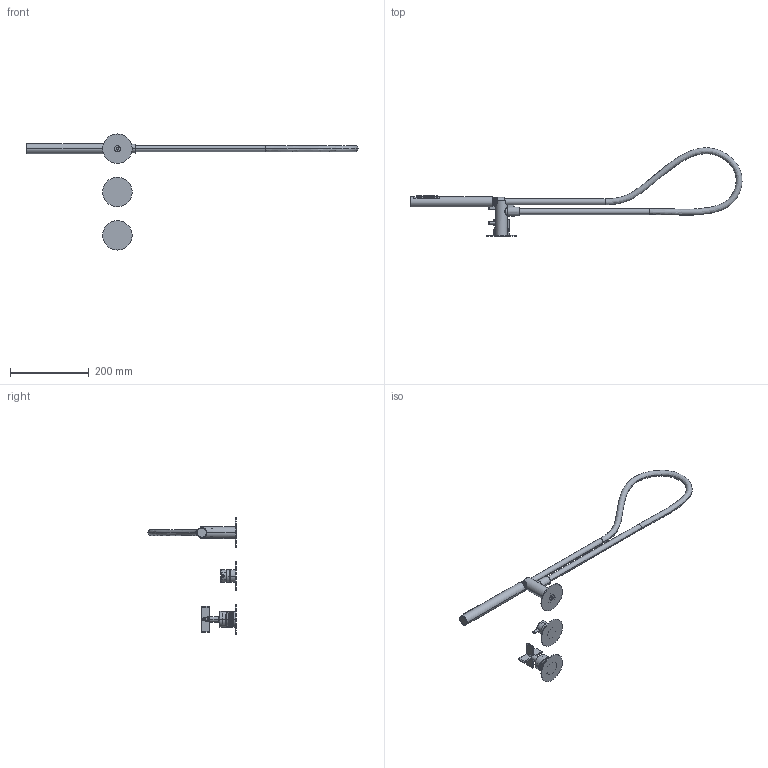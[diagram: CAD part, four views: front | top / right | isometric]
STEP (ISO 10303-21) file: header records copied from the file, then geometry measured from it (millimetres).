
FILE_DESCRIPTION((''),'2;1');
FILE_NAME('39559V2_SW0001','2024-12-05T11:32:11',('carloff'),(''),'CREO PARAMETRIC BY PTC INC, 2022014','CREO PARAMETRIC BY PTC INC, 2022014','');
FILE_SCHEMA(('CONFIG_CONTROL_DESIGN'));
Products named in the file (1): 39559V2_SW0001
Bounding box: 842.84 x 223.93 x 295 mm (x, y, z)
Volume: 441485.1 mm3; surface area: 193205.6 mm2
Topology: 6 solids, 6 shells, 1122 faces, 2949 edges, 1877 vertices
Faces by surface type: cylinder 479, plane 274, bspline 152, cone 119, torus 94, sphere 4
Entity records: 100363 total; most frequent: CARTESIAN_POINT 74419, ORIENTED_EDGE 5842, DIRECTION 4746, EDGE_CURVE 2921, VERTEX_POINT 1877, AXIS2_PLACEMENT_3D 1811, EDGE_LOOP 1224, VECTOR 1124
